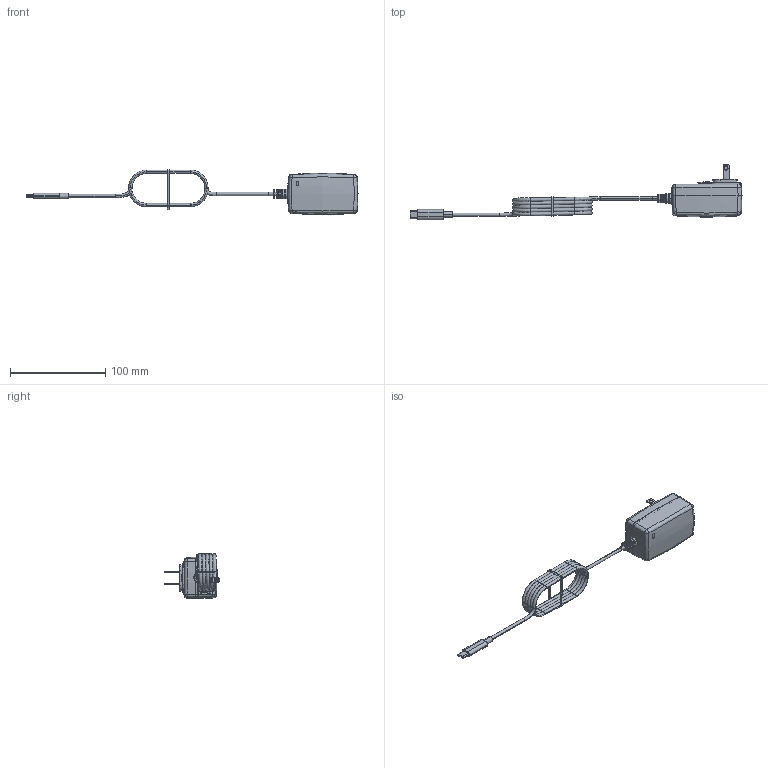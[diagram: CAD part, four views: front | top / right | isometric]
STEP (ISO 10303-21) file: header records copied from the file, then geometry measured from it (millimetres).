
FILE_DESCRIPTION((''),'2;1');
FILE_NAME('GTM96180-WALL-PLUG_ASM','2022-09-13T15:59:20',('rd05'),(''),'CREO PARAMETRIC BY PTC INC, 2018050','CREO PARAMETRIC BY PTC INC, 2018050','');
FILE_SCHEMA(('CONFIG_CONTROL_DESIGN','GEOMETRIC_VALIDATION_PROPERTIES_MIM'));
Length unit declared in the file: millimetre
Products named in the file (21): BTM-CASE; 41052-PCB; NEW-PIN-RIGHT; NEW-PIN-LEFT; COVER; MANIFOLD_SOLID_BREP_3919; AC_PIN; 0; CCC_1_ASM; AC_PIN-UL; CCC_ASM; SR02; TOP-CASE_8_4; LENS_17_5; ASM0001_ASM_2_ASM_11_ASM; LENS-STANDARD; GTM96180_20190702_ASM; PCB_2; WIRE; TYPEC; GTM96180-WALL-PLUG_ASM
Assembly tree (22 placements, depth 4):
  GTM96180-WALL-PLUG_ASM
    BTM-CASE
    41052-PCB
    NEW-PIN-RIGHT
    NEW-PIN-LEFT
    COVER
    MANIFOLD_SOLID_BREP_3919
    CCC_ASM
      CCC_1_ASM
        AC_PIN  x2
        0
      AC_PIN-UL  x2
    SR02
    GTM96180_20190702_ASM
      ASM0001_ASM_2_ASM_11_ASM
        TOP-CASE_8_4
        LENS_17_5
      LENS-STANDARD
    PCB_2
    WIRE
    TYPEC
Bounding box: 349.28 x 58.57 x 47.3 mm (x, y, z)
Volume: 51208.9 mm3; surface area: 63789.8 mm2
Topology: 19 solids, 20 shells, 2304 faces, 5794 edges, 3575 vertices
Faces by surface type: plane 1129, cylinder 576, cone 211, bspline 166, torus 141, sphere 67, extrusion 14
Entity records: 87190 total; most frequent: CARTESIAN_POINT 28200, ORIENTED_EDGE 11284, DIRECTION 10881, EDGE_CURVE 5650, AXIS2_PLACEMENT_3D 3776, VERTEX_POINT 3502, VECTOR 3329, LINE 3315
